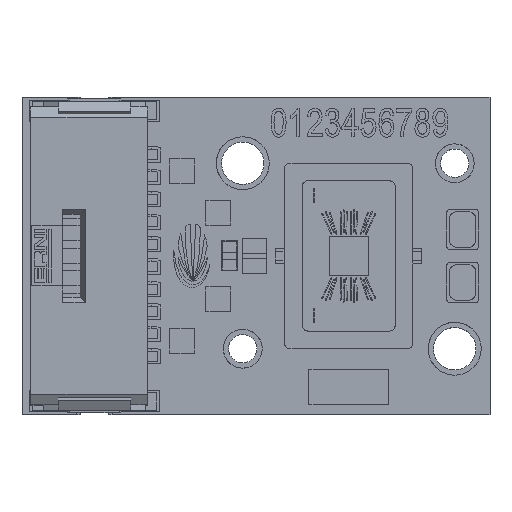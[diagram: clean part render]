
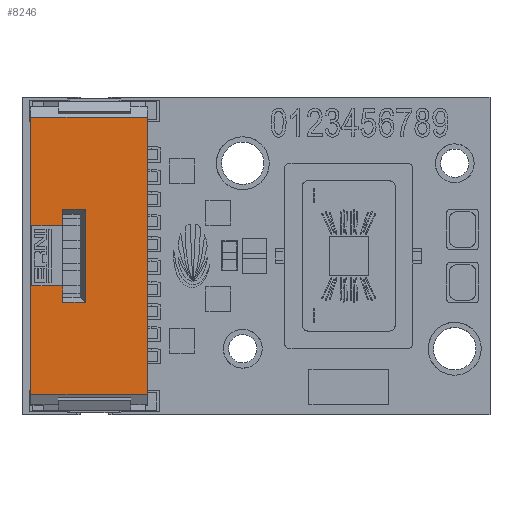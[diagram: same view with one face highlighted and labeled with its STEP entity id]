
A CAD part, top view. The second image highlights one B-rep face of the part: STEP entity #8246.
In plain terms, the highlighted planar face has unit normal (0, 0, 1).
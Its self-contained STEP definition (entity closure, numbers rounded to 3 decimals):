
#16=FACE_BOUND('',#11375,.T.);
#8246=ADVANCED_FACE('',(#9810,#16),#29987,.T.);
#9810=FACE_OUTER_BOUND('',#11374,.T.);
#11374=EDGE_LOOP('',(#13294,#13295,#13296,#13297));
#11375=EDGE_LOOP('',(#13298,#13299,#13300,#13301,#13302,#13303,#13304,#13305));
#13294=ORIENTED_EDGE('',*,*,#20890,.T.);
#13295=ORIENTED_EDGE('',*,*,#20891,.T.);
#13296=ORIENTED_EDGE('',*,*,#20892,.T.);
#13297=ORIENTED_EDGE('',*,*,#20893,.T.);
#13298=ORIENTED_EDGE('',*,*,#20901,.T.);
#13299=ORIENTED_EDGE('',*,*,#20894,.T.);
#13300=ORIENTED_EDGE('',*,*,#20895,.T.);
#13301=ORIENTED_EDGE('',*,*,#20896,.T.);
#13302=ORIENTED_EDGE('',*,*,#20897,.T.);
#13303=ORIENTED_EDGE('',*,*,#20898,.T.);
#13304=ORIENTED_EDGE('',*,*,#20899,.T.);
#13305=ORIENTED_EDGE('',*,*,#20900,.T.);
#20890=EDGE_CURVE('',#27475,#27476,#24702,.T.);
#20891=EDGE_CURVE('',#27476,#27477,#24703,.T.);
#20892=EDGE_CURVE('',#27477,#27478,#24704,.T.);
#20893=EDGE_CURVE('',#27478,#27475,#24705,.T.);
#20894=EDGE_CURVE('',#27479,#27480,#24706,.T.);
#20895=EDGE_CURVE('',#27480,#27481,#24707,.T.);
#20896=EDGE_CURVE('',#27481,#27482,#24708,.T.);
#20897=EDGE_CURVE('',#27482,#27483,#24709,.T.);
#20898=EDGE_CURVE('',#27483,#27484,#24710,.T.);
#20899=EDGE_CURVE('',#27484,#27485,#24711,.T.);
#20900=EDGE_CURVE('',#27485,#27486,#24712,.T.);
#20901=EDGE_CURVE('',#27486,#27479,#24713,.T.);
#24702=B_SPLINE_CURVE_WITH_KNOTS('',1,(#35143,#35144),.UNSPECIFIED.,.F.,
 .F.,(2,2),(0.,6.6),.UNSPECIFIED.);
#24703=B_SPLINE_CURVE_WITH_KNOTS('',1,(#35145,#35146),.UNSPECIFIED.,.F.,
 .F.,(2,2),(0.,15.68),.UNSPECIFIED.);
#24704=B_SPLINE_CURVE_WITH_KNOTS('',1,(#35147,#35148),.UNSPECIFIED.,.F.,
 .F.,(2,2),(0.,6.6),.UNSPECIFIED.);
#24705=B_SPLINE_CURVE_WITH_KNOTS('',1,(#35149,#35150),.UNSPECIFIED.,.F.,
 .F.,(2,2),(0.,15.68),.UNSPECIFIED.);
#24706=B_SPLINE_CURVE_WITH_KNOTS('',1,(#35151,#35152),.UNSPECIFIED.,.F.,
 .F.,(2,2),(0.,1.289),.UNSPECIFIED.);
#24707=B_SPLINE_CURVE_WITH_KNOTS('',1,(#35153,#35154),.UNSPECIFIED.,.F.,
 .F.,(2,2),(0.,0.939),.UNSPECIFIED.);
#24708=B_SPLINE_CURVE_WITH_KNOTS('',1,(#35155,#35156),.UNSPECIFIED.,.F.,
 .F.,(2,2),(0.,1.75),.UNSPECIFIED.);
#24709=B_SPLINE_CURVE_WITH_KNOTS('',1,(#35157,#35158),.UNSPECIFIED.,.F.,
 .F.,(2,2),(0.,3.4),.UNSPECIFIED.);
#24710=B_SPLINE_CURVE_WITH_KNOTS('',1,(#35159,#35160),.UNSPECIFIED.,.F.,
 .F.,(2,2),(0.,1.75),.UNSPECIFIED.);
#24711=B_SPLINE_CURVE_WITH_KNOTS('',1,(#35161,#35162),.UNSPECIFIED.,.F.,
 .F.,(2,2),(0.,0.939),.UNSPECIFIED.);
#24712=B_SPLINE_CURVE_WITH_KNOTS('',1,(#35163,#35164),.UNSPECIFIED.,.F.,
 .F.,(2,2),(0.,1.289),.UNSPECIFIED.);
#24713=B_SPLINE_CURVE_WITH_KNOTS('',1,(#35165,#35166),.UNSPECIFIED.,.F.,
 .F.,(2,2),(0.,5.277),.UNSPECIFIED.);
#27475=VERTEX_POINT('',#34387);
#27476=VERTEX_POINT('',#34388);
#27477=VERTEX_POINT('',#34389);
#27478=VERTEX_POINT('',#34390);
#27479=VERTEX_POINT('',#34391);
#27480=VERTEX_POINT('',#34392);
#27481=VERTEX_POINT('',#34393);
#27482=VERTEX_POINT('',#34394);
#27483=VERTEX_POINT('',#34395);
#27484=VERTEX_POINT('',#34396);
#27485=VERTEX_POINT('',#34397);
#27486=VERTEX_POINT('',#34398);
#29987=PLANE('',#31001);
#31001=AXIS2_PLACEMENT_3D('',#33848,#32387,$);
#32387=DIRECTION('',(0.,0.,1.));
#33848=CARTESIAN_POINT('',(-10.74,9.408,3.527));
#34387=CARTESIAN_POINT('',(-11.4,7.84,3.527));
#34388=CARTESIAN_POINT('',(-18.,7.84,3.527));
#34389=CARTESIAN_POINT('',(-18.,-7.84,3.527));
#34390=CARTESIAN_POINT('',(-11.4,-7.84,3.527));
#34391=CARTESIAN_POINT('',(-14.911,-2.639,3.527));
#34392=CARTESIAN_POINT('',(-16.2,-2.639,3.527));
#34393=CARTESIAN_POINT('',(-16.2,-1.7,3.527));
#34394=CARTESIAN_POINT('',(-17.95,-1.7,3.527));
#34395=CARTESIAN_POINT('',(-17.95,1.7,3.527));
#34396=CARTESIAN_POINT('',(-16.2,1.7,3.527));
#34397=CARTESIAN_POINT('',(-16.2,2.639,3.527));
#34398=CARTESIAN_POINT('',(-14.911,2.639,3.527));
#35143=CARTESIAN_POINT('',(-11.4,7.84,3.527));
#35144=CARTESIAN_POINT('',(-18.,7.84,3.527));
#35145=CARTESIAN_POINT('',(-18.,7.84,3.527));
#35146=CARTESIAN_POINT('',(-18.,-7.84,3.527));
#35147=CARTESIAN_POINT('',(-18.,-7.84,3.527));
#35148=CARTESIAN_POINT('',(-11.4,-7.84,3.527));
#35149=CARTESIAN_POINT('',(-11.4,-7.84,3.527));
#35150=CARTESIAN_POINT('',(-11.4,7.84,3.527));
#35151=CARTESIAN_POINT('',(-14.911,-2.639,3.527));
#35152=CARTESIAN_POINT('',(-16.2,-2.639,3.527));
#35153=CARTESIAN_POINT('',(-16.2,-2.639,3.527));
#35154=CARTESIAN_POINT('',(-16.2,-1.7,3.527));
#35155=CARTESIAN_POINT('',(-16.2,-1.7,3.527));
#35156=CARTESIAN_POINT('',(-17.95,-1.7,3.527));
#35157=CARTESIAN_POINT('',(-17.95,-1.7,3.527));
#35158=CARTESIAN_POINT('',(-17.95,1.7,3.527));
#35159=CARTESIAN_POINT('',(-17.95,1.7,3.527));
#35160=CARTESIAN_POINT('',(-16.2,1.7,3.527));
#35161=CARTESIAN_POINT('',(-16.2,1.7,3.527));
#35162=CARTESIAN_POINT('',(-16.2,2.639,3.527));
#35163=CARTESIAN_POINT('',(-16.2,2.639,3.527));
#35164=CARTESIAN_POINT('',(-14.911,2.639,3.527));
#35165=CARTESIAN_POINT('',(-14.911,2.639,3.527));
#35166=CARTESIAN_POINT('',(-14.911,-2.639,3.527));
